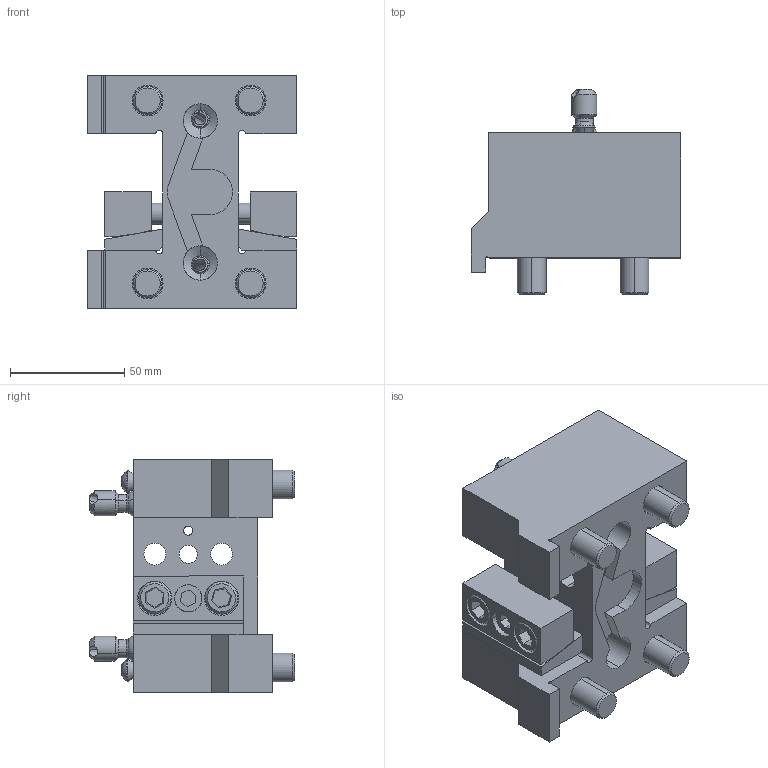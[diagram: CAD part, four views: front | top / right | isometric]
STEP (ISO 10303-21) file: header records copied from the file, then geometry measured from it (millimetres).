
FILE_DESCRIPTION (( 'STEP AP203' ), '1' );
FILE_NAME ('04-0761, BOT20OD-1.0T.STEP', '2022-07-18T15:44:24', ( '' ), ( '' ), 'SwSTEP 2.0', 'SolidWorks 2021', '' );
FILE_SCHEMA (( 'CONFIG_CONTROL_DESIGN' ));
Length unit declared in the file: inch
Products named in the file (1): 04-0761, BOT20OD-1.0T
Bounding box: 91.45 x 89.66 x 101.6 mm (x, y, z)
Surface area: 86428 mm2 (no closed solid volume)
Topology: 0 solids, 29 shells, 310 faces, 827 edges, 554 vertices
Faces by surface type: plane 159, cylinder 95, cone 40, torus 8, sphere 4, bspline 4
Entity records: 10140 total; most frequent: CARTESIAN_POINT 2142, DIRECTION 1719, ORIENTED_EDGE 1506, EDGE_CURVE 827, AXIS2_PLACEMENT_3D 615, VERTEX_POINT 554, LINE 489, VECTOR 489
